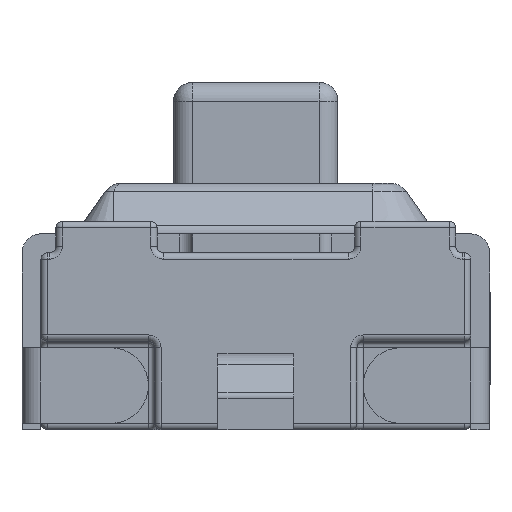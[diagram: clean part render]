
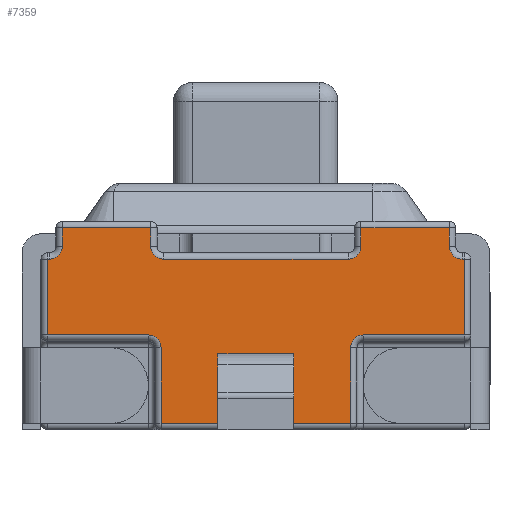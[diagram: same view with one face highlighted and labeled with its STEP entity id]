
A CAD part, left-side view. The second image highlights one B-rep face of the part: STEP entity #7359.
In plain terms, the highlighted planar face has unit normal (-1, 0, 0).
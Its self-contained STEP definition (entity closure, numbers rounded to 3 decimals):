
#657=CIRCLE('',#7988,0.1);
#720=CIRCLE('',#8086,0.1);
#738=CIRCLE('',#8113,0.1);
#768=CIRCLE('',#8161,0.1);
#772=CIRCLE('',#8168,0.1);
#776=CIRCLE('',#8173,0.1);
#1145=FACE_OUTER_BOUND('',#1595,.T.);
#1595=EDGE_LOOP('',(#6102,#6103,#6104,#6105,#6106,#6107,#6108,#6109,#6110,
#6111,#6112,#6113,#6114,#6115,#6116,#6117,#6118,#6119,#6120,#6121,#6122,
#6123));
#1996=LINE('',#11533,#2610);
#2008=LINE('',#11618,#2622);
#2036=LINE('',#11781,#2650);
#2046=LINE('',#11833,#2660);
#2052=LINE('',#11858,#2666);
#2068=LINE('',#11946,#2682);
#2070=LINE('',#11949,#2684);
#2072=LINE('',#11952,#2686);
#2076=LINE('',#11958,#2690);
#2078=LINE('',#11961,#2692);
#2080=LINE('',#11964,#2694);
#2082=LINE('',#11967,#2696);
#2094=LINE('',#11985,#2708);
#2100=LINE('',#11994,#2714);
#2102=LINE('',#11997,#2716);
#2114=LINE('',#12015,#2728);
#2610=VECTOR('',#9360,10.);
#2622=VECTOR('',#9460,10.);
#2650=VECTOR('',#9652,10.);
#2660=VECTOR('',#9714,10.);
#2666=VECTOR('',#9744,10.);
#2682=VECTOR('',#9848,10.);
#2684=VECTOR('',#9852,10.);
#2686=VECTOR('',#9856,10.);
#2690=VECTOR('',#9864,10.);
#2692=VECTOR('',#9868,10.);
#2694=VECTOR('',#9872,10.);
#2696=VECTOR('',#9876,10.);
#2708=VECTOR('',#9900,10.);
#2714=VECTOR('',#9912,10.);
#2716=VECTOR('',#9916,10.);
#2728=VECTOR('',#9940,10.);
#3251=VERTEX_POINT('',#11505);
#3253=VERTEX_POINT('',#11509);
#3258=VERTEX_POINT('',#11524);
#3284=VERTEX_POINT('',#11599);
#3287=VERTEX_POINT('',#11609);
#3311=VERTEX_POINT('',#11688);
#3314=VERTEX_POINT('',#11698);
#3316=VERTEX_POINT('',#11702);
#3332=VERTEX_POINT('',#11751);
#3334=VERTEX_POINT('',#11755);
#3340=VERTEX_POINT('',#11772);
#3349=VERTEX_POINT('',#11799);
#3356=VERTEX_POINT('',#11824);
#3359=VERTEX_POINT('',#11837);
#3362=VERTEX_POINT('',#11847);
#3364=VERTEX_POINT('',#11851);
#3366=VERTEX_POINT('',#11862);
#3368=VERTEX_POINT('',#11866);
#3370=VERTEX_POINT('',#11871);
#3372=VERTEX_POINT('',#11875);
#3378=VERTEX_POINT('',#11889);
#3385=VERTEX_POINT('',#11911);
#4060=EDGE_CURVE('',#3253,#3251,#657,.T.);
#4071=EDGE_CURVE('',#3251,#3258,#1996,.T.);
#4112=EDGE_CURVE('',#3258,#3287,#2008,.T.);
#4155=EDGE_CURVE('',#3316,#3314,#720,.T.);
#4181=EDGE_CURVE('',#3334,#3332,#738,.T.);
#4193=EDGE_CURVE('',#3314,#3340,#2036,.T.);
#4219=EDGE_CURVE('',#3340,#3356,#2046,.T.);
#4229=EDGE_CURVE('',#3364,#3362,#768,.T.);
#4232=EDGE_CURVE('',#3356,#3364,#2052,.T.);
#4237=EDGE_CURVE('',#3368,#3366,#772,.T.);
#4241=EDGE_CURVE('',#3372,#3370,#776,.T.);
#4276=EDGE_CURVE('',#3370,#3385,#2068,.T.);
#4278=EDGE_CURVE('',#3385,#3378,#2070,.T.);
#4280=EDGE_CURVE('',#3378,#3368,#2072,.T.);
#4284=EDGE_CURVE('',#3362,#3372,#2076,.T.);
#4286=EDGE_CURVE('',#3366,#3359,#2078,.T.);
#4288=EDGE_CURVE('',#3359,#3349,#2080,.T.);
#4290=EDGE_CURVE('',#3349,#3334,#2082,.T.);
#4302=EDGE_CURVE('',#3332,#3311,#2094,.T.);
#4308=EDGE_CURVE('',#3287,#3316,#2100,.T.);
#4310=EDGE_CURVE('',#3311,#3284,#2102,.T.);
#4322=EDGE_CURVE('',#3284,#3253,#2114,.T.);
#6102=ORIENTED_EDGE('',*,*,#4241,.F.);
#6103=ORIENTED_EDGE('',*,*,#4284,.F.);
#6104=ORIENTED_EDGE('',*,*,#4229,.F.);
#6105=ORIENTED_EDGE('',*,*,#4232,.F.);
#6106=ORIENTED_EDGE('',*,*,#4219,.F.);
#6107=ORIENTED_EDGE('',*,*,#4193,.F.);
#6108=ORIENTED_EDGE('',*,*,#4155,.F.);
#6109=ORIENTED_EDGE('',*,*,#4308,.F.);
#6110=ORIENTED_EDGE('',*,*,#4112,.F.);
#6111=ORIENTED_EDGE('',*,*,#4071,.F.);
#6112=ORIENTED_EDGE('',*,*,#4060,.F.);
#6113=ORIENTED_EDGE('',*,*,#4322,.F.);
#6114=ORIENTED_EDGE('',*,*,#4310,.F.);
#6115=ORIENTED_EDGE('',*,*,#4302,.F.);
#6116=ORIENTED_EDGE('',*,*,#4181,.F.);
#6117=ORIENTED_EDGE('',*,*,#4290,.F.);
#6118=ORIENTED_EDGE('',*,*,#4288,.F.);
#6119=ORIENTED_EDGE('',*,*,#4286,.F.);
#6120=ORIENTED_EDGE('',*,*,#4237,.F.);
#6121=ORIENTED_EDGE('',*,*,#4280,.F.);
#6122=ORIENTED_EDGE('',*,*,#4278,.F.);
#6123=ORIENTED_EDGE('',*,*,#4276,.F.);
#6994=PLANE('',#8275);
#7359=ADVANCED_FACE('',(#1145),#6994,.T.);
#7988=AXIS2_PLACEMENT_3D('',#11511,#9332,#9333);
#8086=AXIS2_PLACEMENT_3D('',#11704,#9560,#9561);
#8113=AXIS2_PLACEMENT_3D('',#11757,#9622,#9623);
#8161=AXIS2_PLACEMENT_3D('',#11853,#9736,#9737);
#8168=AXIS2_PLACEMENT_3D('',#11868,#9754,#9755);
#8173=AXIS2_PLACEMENT_3D('',#11877,#9764,#9765);
#8275=AXIS2_PLACEMENT_3D('',#12095,#10064,#10065);
#9332=DIRECTION('center_axis',(-1.,0.,0.));
#9333=DIRECTION('ref_axis',(0.,-0.707,0.707));
#9360=DIRECTION('',(0.,1.,0.));
#9460=DIRECTION('',(0.,0.,1.));
#9560=DIRECTION('center_axis',(-1.,0.,0.));
#9561=DIRECTION('ref_axis',(0.,-0.707,-0.707));
#9622=DIRECTION('center_axis',(-1.,0.,0.));
#9623=DIRECTION('ref_axis',(0.,0.707,0.707));
#9652=DIRECTION('',(0.,0.,1.));
#9714=DIRECTION('',(0.,-1.,0.));
#9736=DIRECTION('center_axis',(-1.,0.,0.));
#9737=DIRECTION('ref_axis',(0.,0.707,-0.707));
#9744=DIRECTION('',(0.,0.,-1.));
#9754=DIRECTION('center_axis',(-1.,0.,0.));
#9755=DIRECTION('ref_axis',(0.,0.707,-0.707));
#9764=DIRECTION('center_axis',(-1.,0.,0.));
#9765=DIRECTION('ref_axis',(0.,-0.707,-0.707));
#9848=DIRECTION('',(0.,0.,1.));
#9852=DIRECTION('',(0.,-1.,0.));
#9856=DIRECTION('',(0.,0.,-1.));
#9864=DIRECTION('',(0.,-1.,0.));
#9868=DIRECTION('',(0.,-1.,0.));
#9872=DIRECTION('',(0.,0.,-1.));
#9876=DIRECTION('',(0.,1.,0.));
#9900=DIRECTION('',(0.,0.,-1.));
#9912=DIRECTION('',(0.,-1.,0.));
#9916=DIRECTION('',(0.,1.,0.));
#9940=DIRECTION('',(0.,0.,1.));
#10064=DIRECTION('center_axis',(-1.,0.,0.));
#10065=DIRECTION('ref_axis',(0.,0.,1.));
#11505=CARTESIAN_POINT('',(-3.05,0.85,0.75));
#11509=CARTESIAN_POINT('',(-3.05,0.75,0.65));
#11511=CARTESIAN_POINT('Origin',(-3.05,0.85,0.65));
#11524=CARTESIAN_POINT('',(-3.05,1.65,0.75));
#11533=CARTESIAN_POINT('',(-3.05,0.85,0.75));
#11599=CARTESIAN_POINT('',(-3.05,0.75,0.05));
#11609=CARTESIAN_POINT('',(-3.05,1.65,1.35));
#11618=CARTESIAN_POINT('',(-3.05,1.65,0.413));
#11688=CARTESIAN_POINT('',(-3.05,-0.75,0.05));
#11698=CARTESIAN_POINT('',(-3.05,1.532,1.45));
#11702=CARTESIAN_POINT('',(-3.05,1.632,1.35));
#11704=CARTESIAN_POINT('Origin',(-3.05,1.632,1.45));
#11751=CARTESIAN_POINT('',(-3.05,-0.75,0.65));
#11755=CARTESIAN_POINT('',(-3.05,-0.85,0.75));
#11757=CARTESIAN_POINT('Origin',(-3.05,-0.85,0.65));
#11772=CARTESIAN_POINT('',(-3.05,1.532,1.6));
#11781=CARTESIAN_POINT('',(-3.05,1.532,1.238));
#11799=CARTESIAN_POINT('',(-3.05,-1.65,0.75));
#11824=CARTESIAN_POINT('',(-3.05,0.832,1.6));
#11833=CARTESIAN_POINT('',(-3.05,0.391,1.6));
#11837=CARTESIAN_POINT('',(-3.05,-1.65,1.35));
#11847=CARTESIAN_POINT('',(-3.05,0.732,1.35));
#11851=CARTESIAN_POINT('',(-3.05,0.832,1.45));
#11853=CARTESIAN_POINT('Origin',(-3.05,0.732,1.45));
#11858=CARTESIAN_POINT('',(-3.05,0.832,1.113));
#11862=CARTESIAN_POINT('',(-3.05,-1.632,1.35));
#11866=CARTESIAN_POINT('',(-3.05,-1.532,1.45));
#11868=CARTESIAN_POINT('Origin',(-3.05,-1.632,1.45));
#11871=CARTESIAN_POINT('',(-3.05,-0.832,1.45));
#11875=CARTESIAN_POINT('',(-3.05,-0.732,1.35));
#11877=CARTESIAN_POINT('Origin',(-3.05,-0.732,1.45));
#11889=CARTESIAN_POINT('',(-3.05,-1.532,1.6));
#11911=CARTESIAN_POINT('',(-3.05,-0.832,1.6));
#11946=CARTESIAN_POINT('',(-3.05,-0.832,1.238));
#11949=CARTESIAN_POINT('',(-3.05,-0.791,1.6));
#11952=CARTESIAN_POINT('',(-3.05,-1.532,1.113));
#11958=CARTESIAN_POINT('',(-3.05,0.,1.35));
#11961=CARTESIAN_POINT('',(-3.05,0.,1.35));
#11964=CARTESIAN_POINT('',(-3.05,-1.65,0.413));
#11967=CARTESIAN_POINT('',(-3.05,-0.4,0.75));
#11985=CARTESIAN_POINT('',(-3.05,-0.75,0.413));
#11994=CARTESIAN_POINT('',(-3.05,0.,1.35));
#11997=CARTESIAN_POINT('',(-3.05,0.,0.05));
#12015=CARTESIAN_POINT('',(-3.05,0.75,0.763));
#12095=CARTESIAN_POINT('Origin',(-3.05,0.,0.825));
